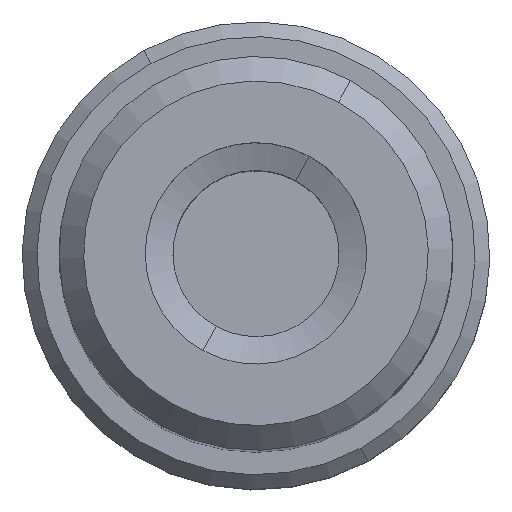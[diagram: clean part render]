
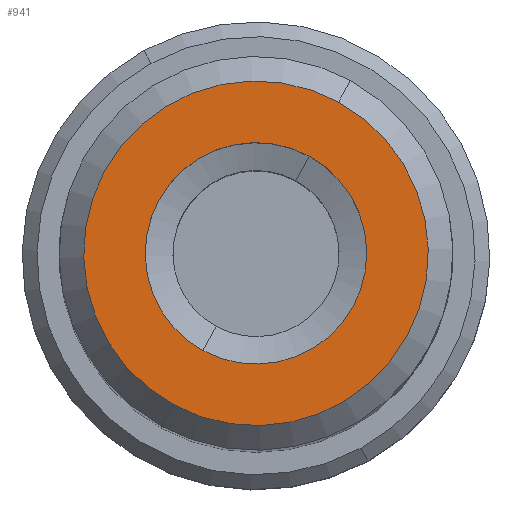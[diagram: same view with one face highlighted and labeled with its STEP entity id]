
A CAD part, top view. The second image highlights one B-rep face of the part: STEP entity #941.
In plain terms, the highlighted planar face has unit normal (0, 0, 1).
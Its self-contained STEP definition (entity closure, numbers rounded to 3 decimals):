
#885=AXIS2_PLACEMENT_3D('Circle Axis2P3D',#883,#884,$) ;
#904=AXIS2_PLACEMENT_3D('Circle Axis2P3D',#902,#903,$) ;
#917=AXIS2_PLACEMENT_3D('Plane Axis2P3D',#914,#915,#916) ;
#925=AXIS2_PLACEMENT_3D('Circle Axis2P3D',#923,#924,$) ;
#934=AXIS2_PLACEMENT_3D('Circle Axis2P3D',#932,#933,$) ;
#880=CARTESIAN_POINT('Vertex',(3.356,6.143,0.)) ;
#883=CARTESIAN_POINT('Axis2P3D Location',(0.,0.,0.)) ;
#887=CARTESIAN_POINT('Vertex',(-3.356,-6.143,0.)) ;
#902=CARTESIAN_POINT('Axis2P3D Location',(0.,0.,0.)) ;
#914=CARTESIAN_POINT('Axis2P3D Location',(0.,7.,0.)) ;
#923=CARTESIAN_POINT('Axis2P3D Location',(0.,0.,0.)) ;
#927=CARTESIAN_POINT('Vertex',(2.157,3.949,0.)) ;
#929=CARTESIAN_POINT('Vertex',(-2.157,-3.949,0.)) ;
#932=CARTESIAN_POINT('Axis2P3D Location',(0.,0.,0.)) ;
#884=DIRECTION('Axis2P3D Direction',(0.,0.,-1.)) ;
#903=DIRECTION('Axis2P3D Direction',(0.,0.,-1.)) ;
#915=DIRECTION('Axis2P3D Direction',(0.,0.,-1.)) ;
#916=DIRECTION('Axis2P3D XDirection',(1.,0.,0.)) ;
#924=DIRECTION('Axis2P3D Direction',(0.,0.,-1.)) ;
#933=DIRECTION('Axis2P3D Direction',(0.,0.,-1.)) ;
#920=ORIENTED_EDGE('',*,*,#889,.F.) ;
#921=ORIENTED_EDGE('',*,*,#906,.F.) ;
#938=ORIENTED_EDGE('',*,*,#931,.F.) ;
#939=ORIENTED_EDGE('',*,*,#936,.F.) ;
#940=FACE_BOUND('',#937,.T.) ;
#941=ADVANCED_FACE('NOCUT',(#922,#940),#918,.F.) ;
#886=CIRCLE('generated circle',#885,7.) ;
#905=CIRCLE('generated circle',#904,7.) ;
#926=CIRCLE('generated circle',#925,4.5) ;
#935=CIRCLE('generated circle',#934,4.5) ;
#889=EDGE_CURVE('',#881,#888,#886,.T.) ;
#906=EDGE_CURVE('',#888,#881,#905,.T.) ;
#931=EDGE_CURVE('',#928,#930,#926,.F.) ;
#936=EDGE_CURVE('',#930,#928,#935,.F.) ;
#919=EDGE_LOOP('',(#920,#921)) ;
#937=EDGE_LOOP('',(#938,#939)) ;
#922=FACE_OUTER_BOUND('',#919,.T.) ;
#918=PLANE('',#917) ;
#881=VERTEX_POINT('',#880) ;
#888=VERTEX_POINT('',#887) ;
#928=VERTEX_POINT('',#927) ;
#930=VERTEX_POINT('',#929) ;
